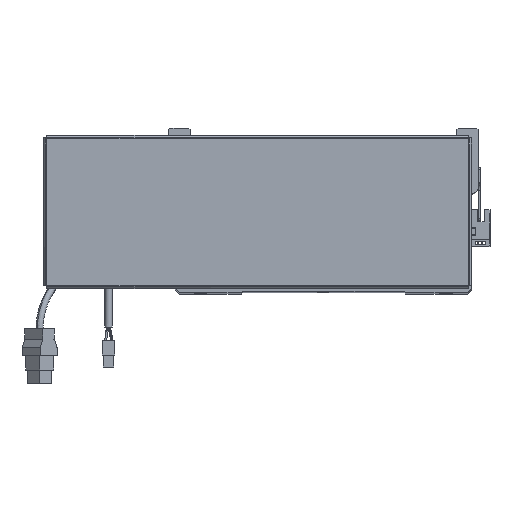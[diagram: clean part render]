
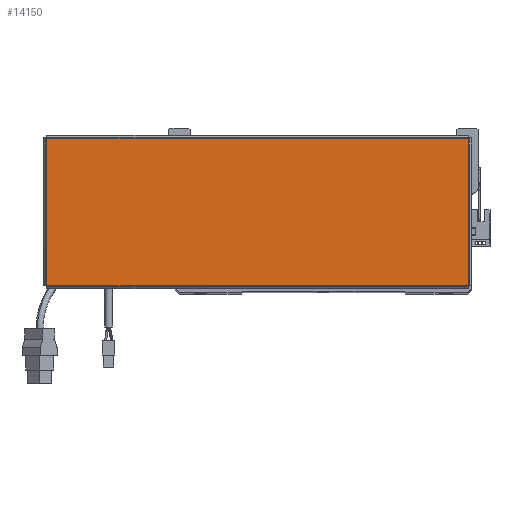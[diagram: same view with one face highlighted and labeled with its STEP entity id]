
A CAD part, top view. The second image highlights one B-rep face of the part: STEP entity #14150.
In plain terms, the highlighted planar face has unit normal (0, 0, 1).
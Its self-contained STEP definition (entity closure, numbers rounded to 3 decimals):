
#776 = PLANE ( 'NONE',  #53031 ) ;
#2654 = CARTESIAN_POINT ( 'NONE',  ( -156.513, 54.793, 0. ) ) ;
#4151 = EDGE_CURVE ( 'NONE', #59644, #39411, #64270, .T. ) ;
#5053 = VERTEX_POINT ( 'NONE', #10619 ) ;
#7955 = EDGE_CURVE ( 'NONE', #37143, #59644, #55094, .T. ) ;
#10619 = CARTESIAN_POINT ( 'NONE',  ( -156.513, 54.763, 0. ) ) ;
#11660 = DIRECTION ( 'NONE',  ( 0., 0., 1. ) ) ;
#12252 = LINE ( 'NONE', #64600, #39260 ) ;
#13926 = LINE ( 'NONE', #2654, #54513 ) ;
#14150 = ADVANCED_FACE ( 'NONE', ( #22190 ), #776, .T. ) ;
#16535 = DIRECTION ( 'NONE',  ( 1., 0., 0. ) ) ;
#19868 = EDGE_CURVE ( 'NONE', #5053, #37143, #13926, .T. ) ;
#21685 = CARTESIAN_POINT ( 'NONE',  ( 0., 0., 0. ) ) ;
#21688 = CARTESIAN_POINT ( 'NONE',  ( 156.513, -54.793, 0. ) ) ;
#22190 = FACE_OUTER_BOUND ( 'NONE', #61975, .T. ) ;
#26238 = CARTESIAN_POINT ( 'NONE',  ( -156.543, -54.763, 0. ) ) ;
#29777 = ORIENTED_EDGE ( 'NONE', *, *, #4151, .T. ) ;
#33491 = ORIENTED_EDGE ( 'NONE', *, *, #7955, .T. ) ;
#36219 = CARTESIAN_POINT ( 'NONE',  ( -156.513, -54.763, 0. ) ) ;
#37143 = VERTEX_POINT ( 'NONE', #36219 ) ;
#39259 = DIRECTION ( 'NONE',  ( -1., 0., 0. ) ) ;
#39260 = VECTOR ( 'NONE', #39259, 1000. ) ;
#39411 = VERTEX_POINT ( 'NONE', #58600 ) ;
#46151 = EDGE_CURVE ( 'NONE', #39411, #5053, #12252, .T. ) ;
#50595 = ORIENTED_EDGE ( 'NONE', *, *, #46151, .T. ) ;
#53031 = AXIS2_PLACEMENT_3D ( 'NONE', #21685, #11660, #16535 ) ;
#53488 = VECTOR ( 'NONE', #57591, 1000. ) ;
#54513 = VECTOR ( 'NONE', #58238, 1000. ) ;
#55094 = LINE ( 'NONE', #26238, #53488 ) ;
#57033 = DIRECTION ( 'NONE',  ( 0., 1., 0. ) ) ;
#57591 = DIRECTION ( 'NONE',  ( 1., 0., 0. ) ) ;
#58091 = ORIENTED_EDGE ( 'NONE', *, *, #19868, .T. ) ;
#58238 = DIRECTION ( 'NONE',  ( 0., -1., 0. ) ) ;
#58600 = CARTESIAN_POINT ( 'NONE',  ( 156.513, 54.763, 0. ) ) ;
#59598 = CARTESIAN_POINT ( 'NONE',  ( 156.513, -54.763, 0. ) ) ;
#59644 = VERTEX_POINT ( 'NONE', #59598 ) ;
#61975 = EDGE_LOOP ( 'NONE', ( #33491, #29777, #50595, #58091 ) ) ;
#64270 = LINE ( 'NONE', #21688, #65864 ) ;
#64600 = CARTESIAN_POINT ( 'NONE',  ( 156.543, 54.763, 0. ) ) ;
#65864 = VECTOR ( 'NONE', #57033, 1000. ) ;
